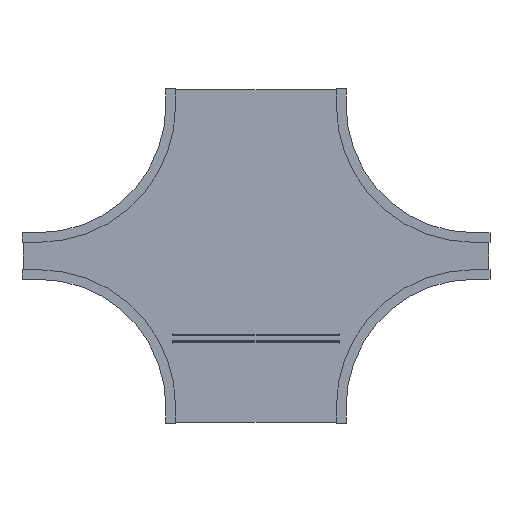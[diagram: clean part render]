
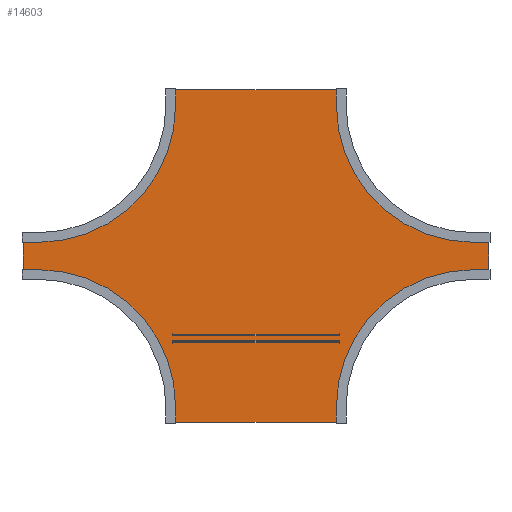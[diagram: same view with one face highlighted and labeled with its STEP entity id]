
A CAD part, front view. The second image highlights one B-rep face of the part: STEP entity #14603.
In plain terms, the highlighted planar face has unit normal (0, -1, 0).
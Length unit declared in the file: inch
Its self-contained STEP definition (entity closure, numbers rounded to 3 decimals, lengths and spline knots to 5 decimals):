
#14300=DIRECTION('',(0.,0.,1.));
#14301=VECTOR('',#14300,5.875);
#14302=CARTESIAN_POINT('',(-41.875,0.,-2.9375));
#14303=LINE('',#14302,#14301);
#14304=DIRECTION('',(1.,0.,0.));
#14305=VECTOR('',#14304,2.785);
#14306=CARTESIAN_POINT('',(-41.875,0.,2.9375));
#14307=LINE('',#14306,#14305);
#14308=CARTESIAN_POINT('',(-39.09,0.,27.09));
#14309=DIRECTION('',(0.,-1.,0.));
#14310=DIRECTION('',(0.,0.,-1.));
#14311=AXIS2_PLACEMENT_3D('',#14308,#14309,#14310);
#14313=DIRECTION('',(0.,0.,1.));
#14314=VECTOR('',#14313,2.785);
#14315=CARTESIAN_POINT('',(-14.9375,0.,27.09));
#14316=LINE('',#14315,#14314);
#14317=DIRECTION('',(1.,0.,0.));
#14318=VECTOR('',#14317,29.875);
#14319=CARTESIAN_POINT('',(-14.9375,0.,29.875));
#14320=LINE('',#14319,#14318);
#14321=DIRECTION('',(0.,0.,-1.));
#14322=VECTOR('',#14321,2.785);
#14323=CARTESIAN_POINT('',(14.9375,0.,29.875));
#14324=LINE('',#14323,#14322);
#14325=CARTESIAN_POINT('',(39.09,0.,27.09));
#14326=DIRECTION('',(0.,-1.,0.));
#14327=DIRECTION('',(-1.,0.,0.));
#14328=AXIS2_PLACEMENT_3D('',#14325,#14326,#14327);
#14330=DIRECTION('',(1.,0.,0.));
#14331=VECTOR('',#14330,2.785);
#14332=CARTESIAN_POINT('',(39.09,0.,2.9375));
#14333=LINE('',#14332,#14331);
#14334=DIRECTION('',(0.,0.,-1.));
#14335=VECTOR('',#14334,5.875);
#14336=CARTESIAN_POINT('',(41.875,0.,2.9375));
#14337=LINE('',#14336,#14335);
#14338=DIRECTION('',(-1.,0.,0.));
#14339=VECTOR('',#14338,2.785);
#14340=CARTESIAN_POINT('',(41.875,0.,-2.9375));
#14341=LINE('',#14340,#14339);
#14342=CARTESIAN_POINT('',(39.09,0.,-27.09));
#14343=DIRECTION('',(0.,-1.,0.));
#14344=DIRECTION('',(0.,0.,1.));
#14345=AXIS2_PLACEMENT_3D('',#14342,#14343,#14344);
#14347=DIRECTION('',(0.,0.,-1.));
#14348=VECTOR('',#14347,2.785);
#14349=CARTESIAN_POINT('',(14.9375,0.,-27.09));
#14350=LINE('',#14349,#14348);
#14351=DIRECTION('',(-1.,0.,0.));
#14352=VECTOR('',#14351,29.875);
#14353=CARTESIAN_POINT('',(14.9375,0.,-29.875));
#14354=LINE('',#14353,#14352);
#14355=DIRECTION('',(0.,0.,1.));
#14356=VECTOR('',#14355,2.785);
#14357=CARTESIAN_POINT('',(-14.9375,0.,-29.875));
#14358=LINE('',#14357,#14356);
#14359=CARTESIAN_POINT('',(-39.09,0.,-27.09));
#14360=DIRECTION('',(0.,-1.,0.));
#14361=DIRECTION('',(1.,0.,0.));
#14362=AXIS2_PLACEMENT_3D('',#14359,#14360,#14361);
#14364=DIRECTION('',(-1.,0.,0.));
#14365=VECTOR('',#14364,2.785);
#14366=CARTESIAN_POINT('',(-39.09,0.,-2.9375));
#14367=LINE('',#14366,#14365);
#14500=CARTESIAN_POINT('',(-41.875,0.,-2.9375));
#14501=CARTESIAN_POINT('',(-41.875,0.,2.9375));
#14502=VERTEX_POINT('',#14500);
#14503=VERTEX_POINT('',#14501);
#14504=CARTESIAN_POINT('',(-39.09,0.,2.9375));
#14505=VERTEX_POINT('',#14504);
#14506=CARTESIAN_POINT('',(-14.9375,0.,27.09));
#14507=VERTEX_POINT('',#14506);
#14508=CARTESIAN_POINT('',(-14.9375,0.,29.875));
#14509=VERTEX_POINT('',#14508);
#14510=CARTESIAN_POINT('',(14.9375,0.,29.875));
#14511=VERTEX_POINT('',#14510);
#14512=CARTESIAN_POINT('',(14.9375,0.,27.09));
#14513=VERTEX_POINT('',#14512);
#14514=CARTESIAN_POINT('',(39.09,0.,2.9375));
#14515=VERTEX_POINT('',#14514);
#14516=CARTESIAN_POINT('',(41.875,0.,2.9375));
#14517=VERTEX_POINT('',#14516);
#14518=CARTESIAN_POINT('',(41.875,0.,-2.9375));
#14519=VERTEX_POINT('',#14518);
#14520=CARTESIAN_POINT('',(39.09,0.,-2.9375));
#14521=VERTEX_POINT('',#14520);
#14522=CARTESIAN_POINT('',(14.9375,0.,-27.09));
#14523=VERTEX_POINT('',#14522);
#14524=CARTESIAN_POINT('',(14.9375,0.,-29.875));
#14525=VERTEX_POINT('',#14524);
#14526=CARTESIAN_POINT('',(-14.9375,0.,-29.875));
#14527=VERTEX_POINT('',#14526);
#14528=CARTESIAN_POINT('',(-14.9375,0.,-27.09));
#14529=VERTEX_POINT('',#14528);
#14530=CARTESIAN_POINT('',(-39.09,0.,-2.9375));
#14531=VERTEX_POINT('',#14530);
#14564=CARTESIAN_POINT('',(0.,0.,0.));
#14565=DIRECTION('',(0.,1.,0.));
#14566=DIRECTION('',(1.,0.,0.));
#14567=AXIS2_PLACEMENT_3D('',#14564,#14565,#14566);
#14568=PLANE('',#14567);
#14570=ORIENTED_EDGE('',*,*,#14569,.T.);
#14572=ORIENTED_EDGE('',*,*,#14571,.T.);
#14574=ORIENTED_EDGE('',*,*,#14573,.T.);
#14576=ORIENTED_EDGE('',*,*,#14575,.T.);
#14578=ORIENTED_EDGE('',*,*,#14577,.T.);
#14580=ORIENTED_EDGE('',*,*,#14579,.T.);
#14582=ORIENTED_EDGE('',*,*,#14581,.T.);
#14584=ORIENTED_EDGE('',*,*,#14583,.T.);
#14586=ORIENTED_EDGE('',*,*,#14585,.T.);
#14588=ORIENTED_EDGE('',*,*,#14587,.T.);
#14590=ORIENTED_EDGE('',*,*,#14589,.T.);
#14592=ORIENTED_EDGE('',*,*,#14591,.T.);
#14594=ORIENTED_EDGE('',*,*,#14593,.T.);
#14596=ORIENTED_EDGE('',*,*,#14595,.T.);
#14598=ORIENTED_EDGE('',*,*,#14597,.T.);
#14600=ORIENTED_EDGE('',*,*,#14599,.T.);
#14601=EDGE_LOOP('',(#14570,#14572,#14574,#14576,#14578,#14580,#14582,#14584,
#14586,#14588,#14590,#14592,#14594,#14596,#14598,#14600));
#14602=FACE_OUTER_BOUND('',#14601,.F.);
#14603=ADVANCED_FACE('',(#14602),#14568,.F.);
#14312=CIRCLE('',#14311,24.1525);
#14329=CIRCLE('',#14328,24.1525);
#14346=CIRCLE('',#14345,24.1525);
#14363=CIRCLE('',#14362,24.1525);
#14569=EDGE_CURVE('',#14502,#14503,#14303,.T.);
#14571=EDGE_CURVE('',#14503,#14505,#14307,.T.);
#14573=EDGE_CURVE('',#14505,#14507,#14312,.T.);
#14575=EDGE_CURVE('',#14507,#14509,#14316,.T.);
#14577=EDGE_CURVE('',#14509,#14511,#14320,.T.);
#14579=EDGE_CURVE('',#14511,#14513,#14324,.T.);
#14581=EDGE_CURVE('',#14513,#14515,#14329,.T.);
#14583=EDGE_CURVE('',#14515,#14517,#14333,.T.);
#14585=EDGE_CURVE('',#14517,#14519,#14337,.T.);
#14587=EDGE_CURVE('',#14519,#14521,#14341,.T.);
#14589=EDGE_CURVE('',#14521,#14523,#14346,.T.);
#14591=EDGE_CURVE('',#14523,#14525,#14350,.T.);
#14593=EDGE_CURVE('',#14525,#14527,#14354,.T.);
#14595=EDGE_CURVE('',#14527,#14529,#14358,.T.);
#14597=EDGE_CURVE('',#14529,#14531,#14363,.T.);
#14599=EDGE_CURVE('',#14531,#14502,#14367,.T.);
